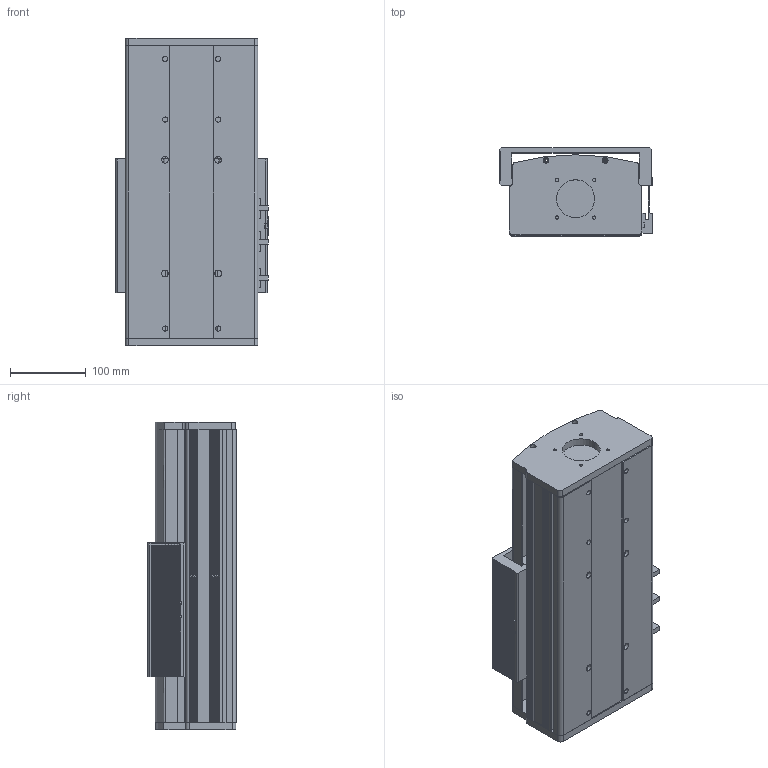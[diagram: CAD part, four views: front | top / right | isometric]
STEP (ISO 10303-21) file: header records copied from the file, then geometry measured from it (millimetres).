
FILE_DESCRIPTION (( 'STEP AP203' ), '1' );
FILE_NAME ('CF175B-C-50-FW.STEP', '2020-07-15T01:48:05', ( 'Micorosoft' ), ( 'Micorosoft' ), 'SwSTEP 2.0', 'SolidWorks 2016', '' );
FILE_SCHEMA (( 'CONFIG_CONTROL_DESIGN' ));
Length unit declared in the file: millimetre
Products named in the file (12): EGR20絳寢-50; CF175-2賑雄啣; 75-86-95癹弇羲壽覜茼え; CF-EGH20CA賑輸; 175-2耜啣; 175B珨极嘐隅釱; 175-2盓傅釱; 嫖萇羲壽; CF175-2蹟譫釱; CF175B-C-50-FW; 175B裔啣-50; 175B臏倰第-50
Assembly tree (17 placements, depth 2):
  CF175B-C-50-FW
    175-2耜啣
    175-2盓傅釱
    CF175-2蹟譫釱
    175B裔啣-50
    175B臏倰第-50
    EGR20絳寢-50  x2
    CF175-2賑雄啣
    75-86-95癹弇羲壽覜茼え
    CF-EGH20CA賑輸  x4
    175B珨极嘐隅釱
    嫖萇羲壽  x3
Bounding box: 201.1 x 116.8 x 405 mm (x, y, z)
Volume: 4988465.9 mm3; surface area: 1124626.8 mm2
Topology: 23 solids, 23 shells, 1199 faces, 3198 edges, 2124 vertices
Faces by surface type: plane 669, cylinder 524, cone 4, bspline 2
Entity records: 29740 total; most frequent: CARTESIAN_POINT 5050, DIRECTION 5027, ORIENTED_EDGE 4732, EDGE_CURVE 2366, AXIS2_PLACEMENT_3D 1789, VERTEX_POINT 1572, LINE 1449, VECTOR 1449
